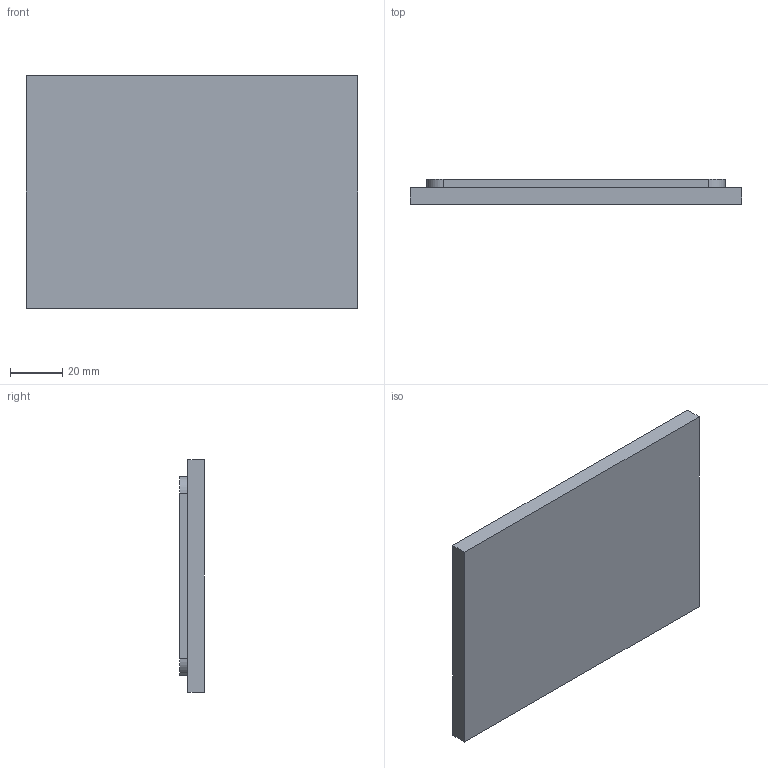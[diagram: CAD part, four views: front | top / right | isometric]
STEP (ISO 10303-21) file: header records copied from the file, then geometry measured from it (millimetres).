
FILE_DESCRIPTION (( 'STEP AP203' ), '1' );
FILE_NAME ('Laser Top Small.STEP', '2023-09-27T21:19:09', ( '' ), ( '' ), 'SwSTEP 2.0', 'SolidWorks 2023', '' );
FILE_SCHEMA (( 'CONFIG_CONTROL_DESIGN' ));
Length unit declared in the file: inch
Products named in the file (1): Laser Top Small
Bounding box: 127 x 9.53 x 88.9 mm (x, y, z)
Volume: 99236.7 mm3; surface area: 26497.6 mm2
Topology: 1 solids, 1 shells, 15 faces, 36 edges, 24 vertices
Faces by surface type: plane 11, cylinder 4
Entity records: 517 total; most frequent: CARTESIAN_POINT 76, DIRECTION 76, ORIENTED_EDGE 72, EDGE_CURVE 36, LINE 28, VECTOR 28, VERTEX_POINT 24, AXIS2_PLACEMENT_3D 24
